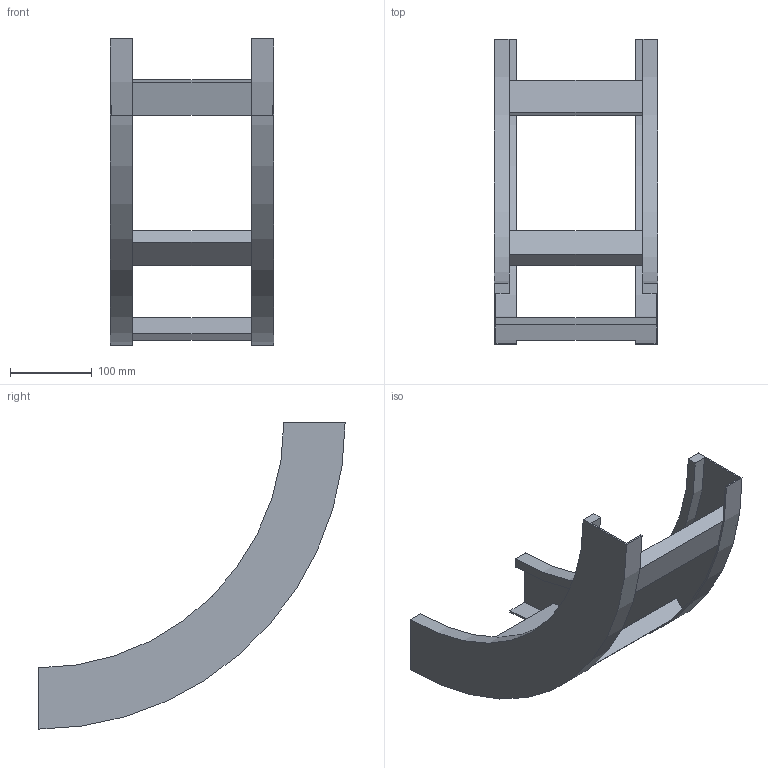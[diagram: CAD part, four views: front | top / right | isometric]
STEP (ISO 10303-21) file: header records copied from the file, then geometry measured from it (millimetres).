
FILE_DESCRIPTION (( 'STEP AP214' ), '1' );
FILE_NAME ('B2X30B3C200XX.step', '2025-03-20T10:25:12', ( '' ), ( '' ), 'SwSTEP 2.0', 'SolidWorks 2023', '' );
FILE_SCHEMA (( 'AUTOMOTIVE_DESIGN' ));
Length unit declared in the file: millimetre
Products named in the file (3): B2X30B3C200XX; B2_LONGH.SALITA_90°_H75_R300; TRAVERSINO_200
Assembly tree (5 placements, depth 2):
  B2X30B3C200XX
    B2_LONGH.SALITA_90°_H75_R300  x2
    TRAVERSINO_200  x3
Bounding box: 200 x 375 x 375 mm (x, y, z)
Volume: 878645.8 mm3; surface area: 330370.5 mm2
Topology: 5 solids, 5 shells, 38 faces, 84 edges, 56 vertices
Faces by surface type: plane 30, cylinder 8
Entity records: 560 total; most frequent: DIRECTION 92, CARTESIAN_POINT 84, ORIENTED_EDGE 72, EDGE_CURVE 36, AXIS2_PLACEMENT_3D 32, LINE 28, VECTOR 28, VERTEX_POINT 24
